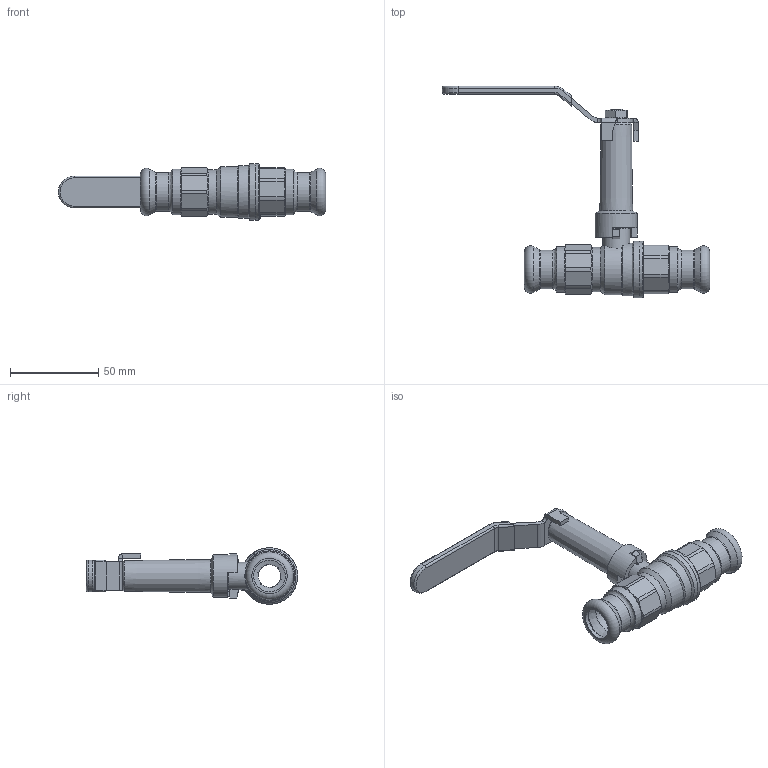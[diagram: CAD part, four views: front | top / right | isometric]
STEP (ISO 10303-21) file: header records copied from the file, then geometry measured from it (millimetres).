
FILE_DESCRIPTION((''),'2;1');
FILE_NAME('P:\Fastrack\53972_CRANE 3D\Press Fit\Fig_100PF\100EXS-PF\18MM\Fig_100EXS-PF-18MM.stp','2012-01-18T14:39:34',('dcole'),(''),'Autodesk Inventor 2008','Autodesk Inventor 2008','');
FILE_SCHEMA(('AUTOMOTIVE_DESIGN { 1 0 10303 214 1 1 1 1 }'));
Length unit declared in the file: millimetre
Products named in the file (1): Fig_100EXS-PF-18MM
Bounding box: 151.4 x 119.79 x 32 mm (x, y, z)
Volume: 59208.8 mm3; surface area: 38531.4 mm2
Topology: 1 solids, 11 shells, 515 faces, 1660 edges, 1242 vertices
Faces by surface type: plane 255, cylinder 128, cone 86, torus 24, bspline 19, sphere 3
Full cylindrical faces by diameter (mm): 2 x2, 6.75 x1, 8 x1, 8.1 x2, 8.3 x1, 9 x1, 9.5 x1, 10 x1, 10.5 x1, 10.6 x1, 10.75 x1, 10.8 x1, 11.1 x1, 13.5 x1, 14.8 x1, 15 x4, 15.5 x1, 18 x5, 18.1 x2, 18.631 x2, 20.2 x2, 21 x4, 22 x2, 22.1 x2, 24 x1, 25 x1, 25.5 x1, 26 x2, 27 x1, 27.2 x1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
Entity records: 28948 total; most frequent: CARTESIAN_POINT 14794, ORIENTED_EDGE 2942, DIRECTION 2489, EDGE_CURVE 1471, VERTEX_POINT 1180, AXIS2_PLACEMENT_3D 919, EDGE_LOOP 771, VECTOR 651
